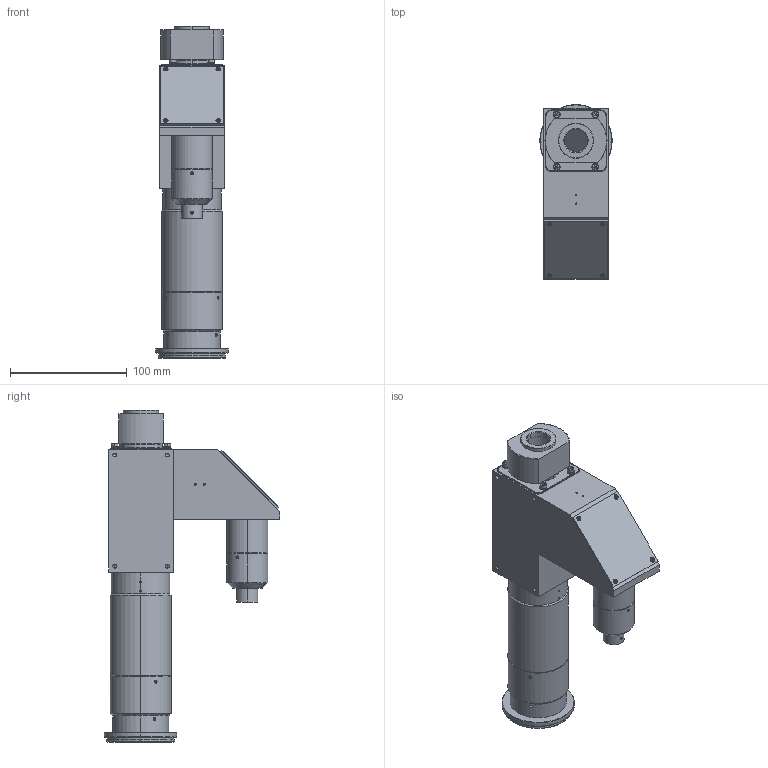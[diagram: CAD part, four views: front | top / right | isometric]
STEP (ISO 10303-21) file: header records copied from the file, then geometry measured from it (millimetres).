
FILE_DESCRIPTION (( 'STEP AP214' ), '1' );
FILE_NAME ('SOD-180-32M58.STEP', '2026-02-19T02:33:04', ( '' ), ( '' ), 'SwSTEP 2.0', 'SolidWorks 2025', '' );
FILE_SCHEMA (( 'AUTOMOTIVE_DESIGN' ));
Length unit declared in the file: millimetre
Products named in the file (1): SOD-180-32M58
Bounding box: 62 x 149.83 x 283.8 mm (x, y, z)
Volume: 860948 mm3; surface area: 109506.6 mm2
Topology: 1 solids, 24 shells, 1058 faces, 2529 edges, 1566 vertices
Faces by surface type: plane 434, cylinder 315, cone 247, torus 52, sphere 10
Entity records: 32313 total; most frequent: CARTESIAN_POINT 7840, DIRECTION 5271, ORIENTED_EDGE 4962, EDGE_CURVE 2481, AXIS2_PLACEMENT_3D 2053, VERTEX_POINT 1566, EDGE_LOOP 1181, LINE 1165
